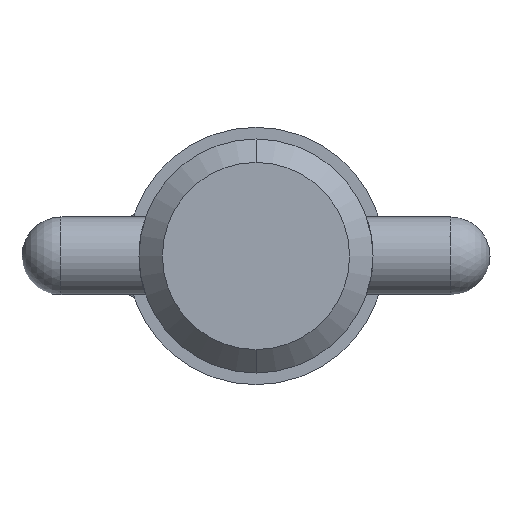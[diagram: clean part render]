
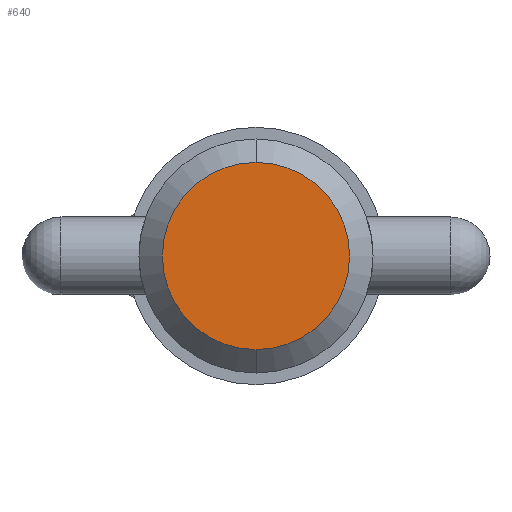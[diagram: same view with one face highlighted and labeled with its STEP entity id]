
A CAD part, left-side view. The second image highlights one B-rep face of the part: STEP entity #640.
In plain terms, the highlighted planar face has unit normal (-1, 0, 0).
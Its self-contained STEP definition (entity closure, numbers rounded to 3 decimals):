
#25 = CARTESIAN_POINT ( 'NONE',  ( 0., 0., 0. ) ) ;
#93 = DIRECTION ( 'NONE',  ( 0., 0., -1. ) ) ;
#109 = CARTESIAN_POINT ( 'NONE',  ( 0., 0., 0. ) ) ;
#168 = FACE_OUTER_BOUND ( 'NONE', #899, .T. ) ;
#241 = DIRECTION ( 'NONE',  ( 1., 0., 0. ) ) ;
#268 = AXIS2_PLACEMENT_3D ( 'NONE', #657, #241, #93 ) ;
#274 = DIRECTION ( 'NONE',  ( 0., 0., -1. ) ) ;
#290 = EDGE_CURVE ( 'NONE', #877, #769, #797, .T. ) ;
#334 = PLANE ( 'NONE',  #741 ) ;
#340 = DIRECTION ( 'NONE',  ( 1., 0., 0. ) ) ;
#455 = CARTESIAN_POINT ( 'NONE',  ( 0., 0., -7.62 ) ) ;
#555 = EDGE_CURVE ( 'NONE', #769, #877, #916, .T. ) ;
#564 = ORIENTED_EDGE ( 'NONE', *, *, #290, .F. ) ;
#568 = DIRECTION ( 'NONE',  ( 0., 0., 1. ) ) ;
#615 = CARTESIAN_POINT ( 'NONE',  ( 0., 0., 7.62 ) ) ;
#640 = ADVANCED_FACE ( 'NONE', ( #168 ), #334, .T. ) ;
#657 = CARTESIAN_POINT ( 'NONE',  ( 0., 0., 0. ) ) ;
#722 = AXIS2_PLACEMENT_3D ( 'NONE', #109, #340, #274 ) ;
#741 = AXIS2_PLACEMENT_3D ( 'NONE', #25, #827, #568 ) ;
#769 = VERTEX_POINT ( 'NONE', #615 ) ;
#797 = CIRCLE ( 'NONE', #722, 7.62 ) ;
#827 = DIRECTION ( 'NONE',  ( -1., 0., 0. ) ) ;
#877 = VERTEX_POINT ( 'NONE', #455 ) ;
#899 = EDGE_LOOP ( 'NONE', ( #564, #933 ) ) ;
#916 = CIRCLE ( 'NONE', #268, 7.62 ) ;
#933 = ORIENTED_EDGE ( 'NONE', *, *, #555, .F. ) ;
